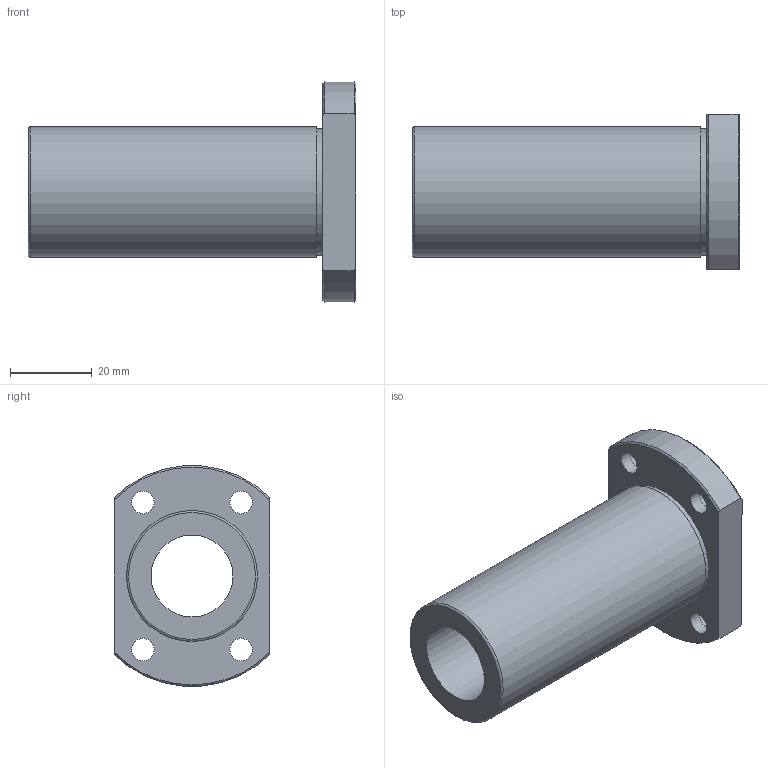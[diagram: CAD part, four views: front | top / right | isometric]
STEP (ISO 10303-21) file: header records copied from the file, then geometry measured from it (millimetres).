
FILE_DESCRIPTION(('STEP AP203'),'1');
FILE_NAME('//192.168.1.1/share/s-4 技術開発/s-4-4_CAD/s-4-4-3_見直し済み/002 修正済み/NFEO-VL(済)/NFEO-VL_TOP/NFEO-20VLUU.step','2022-03-08T01:34:38',(' '),(' '),'Spatial InterOp 3D',' ',' ');
FILE_SCHEMA(('CONFIG_CONTROL_DESIGN'));
Length unit declared in the file: millimetre
Products named in the file (1): 1
Bounding box: 80 x 38 x 53.8 mm (x, y, z)
Volume: 46043.2 mm3; surface area: 17278.3 mm2
Topology: 1 solids, 1 shells, 28 faces, 59 edges, 39 vertices
Faces by surface type: cylinder 13, plane 10, cone 4, torus 1
Full cylindrical faces by diameter (mm): 5.5 x4, 9 x4, 20 x1, 31 x1, 32 x1
Entity records: 778 total; most frequent: CARTESIAN_POINT 139, DIRECTION 128, ORIENTED_EDGE 94, AXIS2_PLACEMENT_3D 60, EDGE_LOOP 56, EDGE_CURVE 47, FACE_OUTER_BOUND 40, VERTEX_POINT 39
